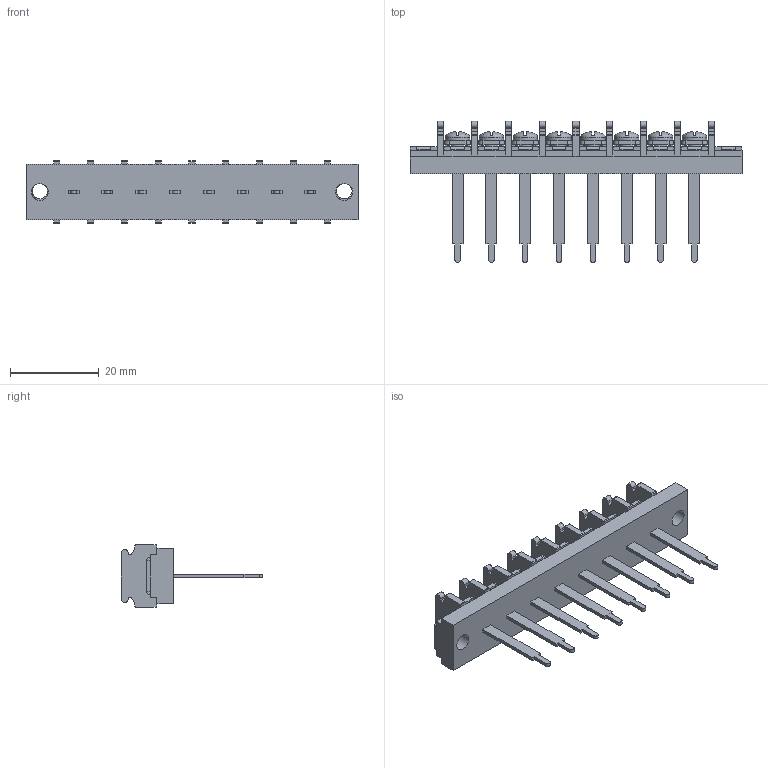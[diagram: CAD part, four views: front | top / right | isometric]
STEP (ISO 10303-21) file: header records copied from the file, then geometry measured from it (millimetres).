
FILE_DESCRIPTION(/* description */ ('Alibre Inc.'),/* implementation_level */ '2;1');
FILE_NAME(/* name */ 'export0',/* time_stamp */ '2015-10-26T16:31:25+09:00',/* author */ (''),/* organization */ (''),/* preprocessor_version */ 'ST-DEVELOPER v14',/* originating_system */ 'Alibre',/* authorisation */ '');
FILE_SCHEMA (('CONFIG_CONTROL_DESIGN'));
Length unit declared in the file: centimetre
Products named in the file (1): ID_1
Bounding box: 74.78 x 31.8 x 14 mm (x, y, z)
Volume: 6900.9 mm3; surface area: 7149.1 mm2
Topology: 1 solids, 17 shells, 1380 faces, 3756 edges, 2464 vertices
Faces by surface type: plane 1078, cylinder 134, bspline 104, cone 32, torus 16, sphere 16
Full cylindrical faces by diameter (mm): 3 x8, 3.5 x2, 3.8 x2, 5.5 x8
Entity records: 41137 total; most frequent: CARTESIAN_POINT 8733, ORIENTED_EDGE 7400, DIRECTION 5150, EDGE_CURVE 3700, VECTOR 2724, LINE 2724, VERTEX_POINT 2444, AXIS2_PLACEMENT_3D 1709
